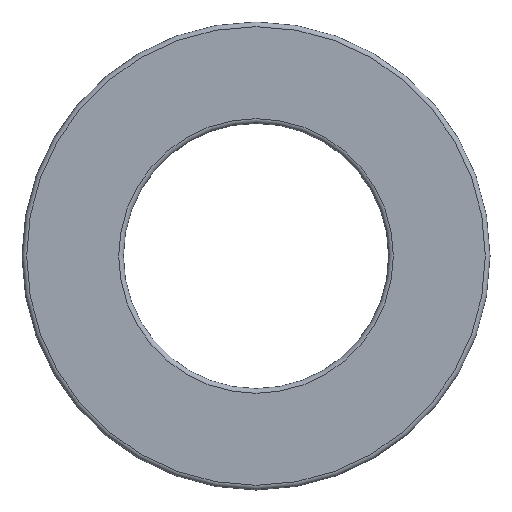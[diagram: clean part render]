
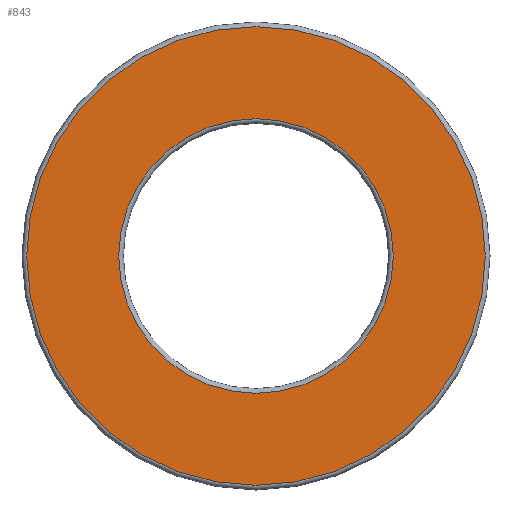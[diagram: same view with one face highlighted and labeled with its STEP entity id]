
A CAD part, front view. The second image highlights one B-rep face of the part: STEP entity #843.
In plain terms, the highlighted planar face has unit normal (0, -1, 0).
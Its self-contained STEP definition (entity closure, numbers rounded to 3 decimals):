
#116=PLANE('',#919);
#147=FACE_BOUND('',#308,.T.);
#239=FACE_OUTER_BOUND('',#307,.T.);
#307=EDGE_LOOP('',(#692));
#308=EDGE_LOOP('',(#693));
#454=CIRCLE('',#918,14.7);
#455=CIRCLE('',#920,8.8);
#531=VERTEX_POINT('',#1400);
#532=VERTEX_POINT('',#1403);
#609=EDGE_CURVE('',#531,#531,#454,.T.);
#610=EDGE_CURVE('',#532,#532,#455,.T.);
#692=ORIENTED_EDGE('',*,*,#609,.F.);
#693=ORIENTED_EDGE('',*,*,#610,.F.);
#843=ADVANCED_FACE('',(#239,#147),#116,.T.);
#918=AXIS2_PLACEMENT_3D('',#1401,#1092,#1093);
#919=AXIS2_PLACEMENT_3D('',#1402,#1094,#1095);
#920=AXIS2_PLACEMENT_3D('',#1404,#1096,#1097);
#1092=DIRECTION('center_axis',(0.,1.,0.));
#1093=DIRECTION('ref_axis',(-1.,0.,0.));
#1094=DIRECTION('center_axis',(0.,-1.,0.));
#1095=DIRECTION('ref_axis',(0.,0.,-1.));
#1096=DIRECTION('center_axis',(0.,-1.,0.));
#1097=DIRECTION('ref_axis',(-1.,0.,0.));
#1400=CARTESIAN_POINT('',(14.7,-4.5,0.));
#1401=CARTESIAN_POINT('Origin',(0.,-4.5,0.));
#1402=CARTESIAN_POINT('Origin',(8.5,-4.5,0.));
#1403=CARTESIAN_POINT('',(8.8,-4.5,0.));
#1404=CARTESIAN_POINT('Origin',(0.,-4.5,0.));
